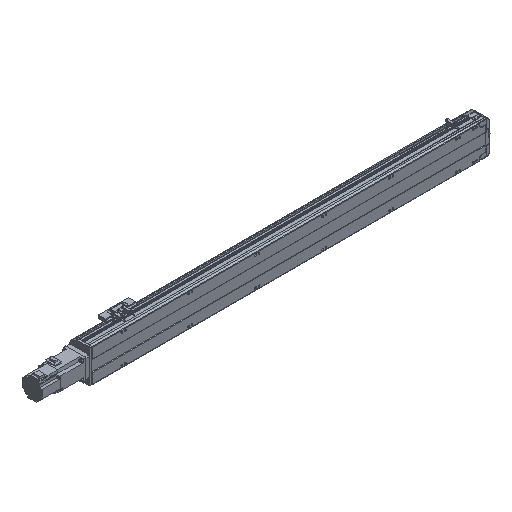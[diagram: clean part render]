
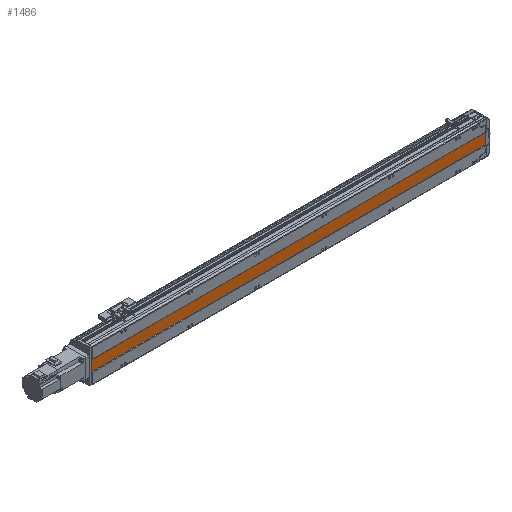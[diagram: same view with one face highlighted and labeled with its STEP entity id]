
A CAD part, isometric view. The second image highlights one B-rep face of the part: STEP entity #1486.
In plain terms, the highlighted planar face has unit normal (0, -1, 0).
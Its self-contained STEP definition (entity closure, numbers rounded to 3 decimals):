
#1486 = ADVANCED_FACE( '', ( #3414 ), #3415, .F. );
#3414 = FACE_OUTER_BOUND( '', #5911, .T. );
#3415 = PLANE( '', #5912 );
#5911 = EDGE_LOOP( '', ( #10037, #10038, #10039, #10040 ) );
#5912 = AXIS2_PLACEMENT_3D( '', #10041, #10042, #10043 );
#10037 = ORIENTED_EDGE( '', *, *, #15561, .F. );
#10038 = ORIENTED_EDGE( '', *, *, #14166, .T. );
#10039 = ORIENTED_EDGE( '', *, *, #15532, .T. );
#10040 = ORIENTED_EDGE( '', *, *, #14461, .F. );
#10041 = CARTESIAN_POINT( '', ( 1197., 1., 16. ) );
#10042 = DIRECTION( '', ( 0., 1., 0. ) );
#10043 = DIRECTION( '', ( 0., 0., 1. ) );
#14166 = EDGE_CURVE( '', #16773, #16777, #16779, .T. );
#14461 = EDGE_CURVE( '', #17304, #17307, #17308, .T. );
#15532 = EDGE_CURVE( '', #16777, #17307, #19054, .T. );
#15561 = EDGE_CURVE( '', #16773, #17304, #19099, .T. );
#16773 = VERTEX_POINT( '', #20659 );
#16777 = VERTEX_POINT( '', #20665 );
#16779 = LINE( '', #20668, #20669 );
#17304 = VERTEX_POINT( '', #21414 );
#17307 = VERTEX_POINT( '', #21418 );
#17308 = LINE( '', #21419, #21420 );
#19054 = LINE( '', #24176, #24177 );
#19099 = LINE( '', #24236, #24237 );
#20659 = CARTESIAN_POINT( '', ( 1183.5, 1., 16. ) );
#20665 = CARTESIAN_POINT( '', ( 6., 1., 16. ) );
#20668 = CARTESIAN_POINT( '', ( 1197., 1., 16. ) );
#20669 = VECTOR( '', #26395, 1000. );
#21414 = CARTESIAN_POINT( '', ( 1183.5, 1., -16. ) );
#21418 = CARTESIAN_POINT( '', ( 6., 1., -16. ) );
#21419 = CARTESIAN_POINT( '', ( 1197., 1., -16. ) );
#21420 = VECTOR( '', #26756, 1000. );
#24176 = CARTESIAN_POINT( '', ( 6., 1., 16. ) );
#24177 = VECTOR( '', #28093, 1000. );
#24236 = CARTESIAN_POINT( '', ( 1183.5, 1., 16. ) );
#24237 = VECTOR( '', #28135, 1000. );
#26395 = DIRECTION( '', ( -1., 0., 0. ) );
#26756 = DIRECTION( '', ( -1., 0., 0. ) );
#28093 = DIRECTION( '', ( 0., 0., -1. ) );
#28135 = DIRECTION( '', ( 0., 0., -1. ) );
